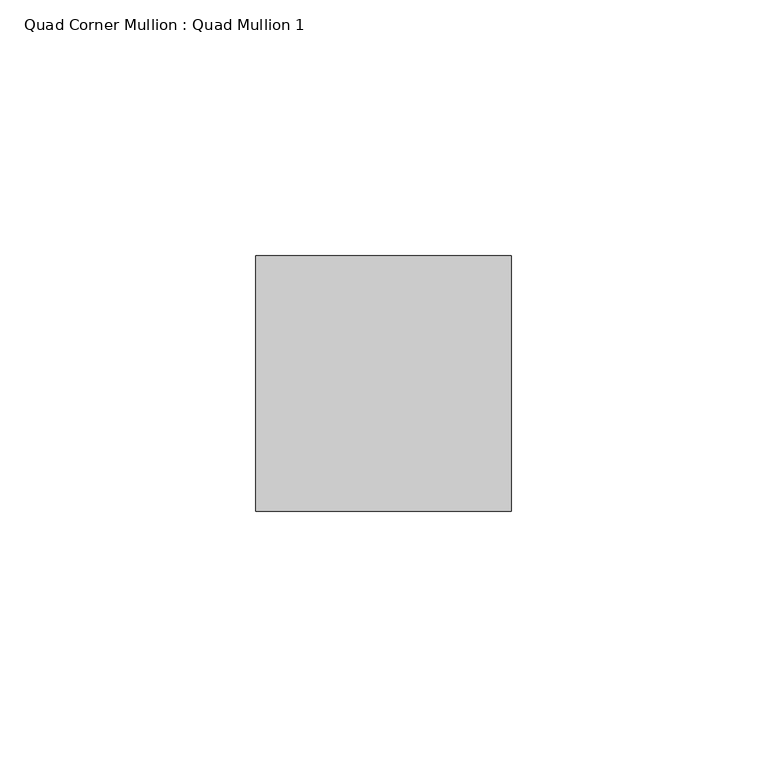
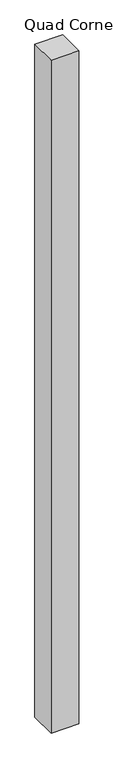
"""IFC4 building model written with IfcOpenShell, lengths in millimetres: member geometry, Quad Corner Mullion : Quad Mullion 1."""

from ifc_helpers import new_model, si_unit, frame, origin, place, context, project, spatial, polyline, outline, extrude, source, transform, mapped, element, save


def quad_corner_mullion_quad_mullion_1_06b71532(model_context):
    return source(origin(), model_context, "Body", "SweptSolid", [
        extrude(outline(polyline([(25.0, 25.0), (25.0, -25.0), (-25.0, -25.0), (-25.0, 25.0), (25.0, 25.0)])), frame((0.0, 0.0, -1273.0812386), z_axis=(0.0, 0.0, 1.0), x_axis=(1.0, 0.0, 0.0)), (0.0, 0.0, 1.0), 1273.0812386),
    ])


if __name__ == "__main__":
    model = new_model("IFC4")
    model_context = context("Model", 3, world=origin())
    ifc_project = project(units=[si_unit("LENGTHUNIT", "METRE", prefix="MILLI")], contexts=[model_context])
    site = spatial("IfcSite", under=ifc_project)
    building = spatial("IfcBuilding", under=site)
    placement = place(None, origin())
    quad_corner_mullion_quad_mullion_1_shape = quad_corner_mullion_quad_mullion_1_06b71532(model_context)
    element("IfcMember", 1, ObjectType="Quad Corner Mullion : Quad Mullion 1", at=placement, inside=building, context=model_context, shape_type="MappedRepresentation", body=[
        mapped(quad_corner_mullion_quad_mullion_1_shape, transform((0.0, 0.0, 0.0), x_axis=(1.0, 0.0, 0.0), y_axis=(0.0, 1.0, 0.0), z_axis=(0.0, 0.0, 1.0))),
    ])
    save(model, "model.ifc")
